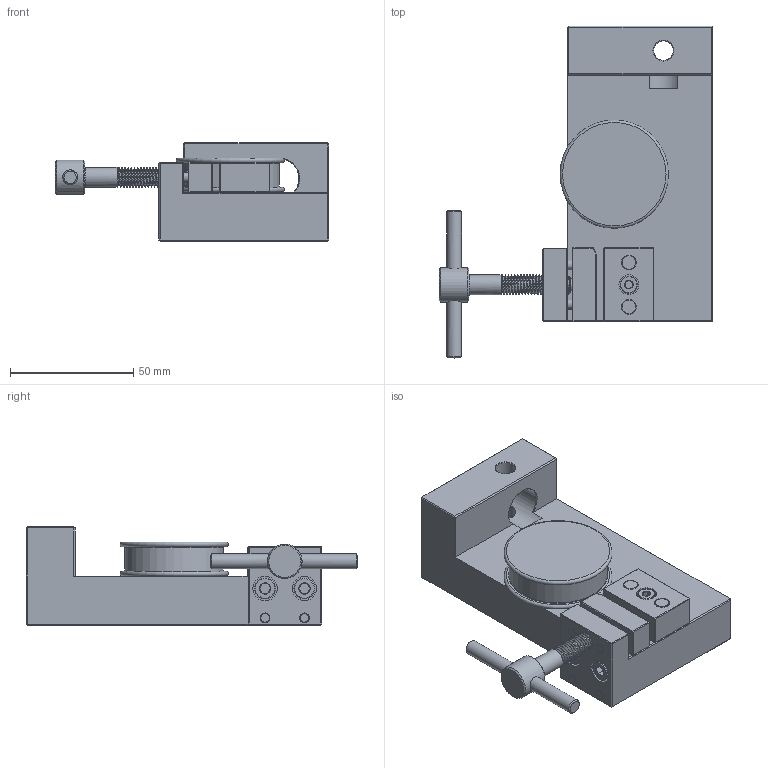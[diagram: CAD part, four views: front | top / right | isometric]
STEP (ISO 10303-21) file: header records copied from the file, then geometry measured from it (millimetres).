
FILE_DESCRIPTION((''),'2;1');
FILE_NAME('F:\SHARED FILES\DENE\3D MARKETING MODELS\WORK IN PROGRESS\NEW GRIPS 112117\G1102\G1102 MODEL.stp','2017-11-29T09:54:14',('mlampen'),(''),'Autodesk Inventor 2010','Autodesk Inventor 2010','');
FILE_SCHEMA(('AUTOMOTIVE_DESIGN { 1 0 10303 214 1 1 1 1 }'));
Length unit declared in the file: inch
Products named in the file (3): Assembly1; Part2; Part4
Assembly tree (2 placements, depth 2):
  Assembly1
    Part2
    Part4
Bounding box: 111.02 x 134.76 x 40 mm (x, y, z)
Volume: 202076.3 mm3; surface area: 39763.7 mm2
Topology: 3 solids, 3 shells, 224 faces, 658 edges, 461 vertices
Faces by surface type: plane 112, cylinder 49, cone 40, bspline 19, torus 4
Full cylindrical faces by diameter (mm): 3.975 x2, 3.988 x4, 5 x1, 6 x2, 6.02 x2, 6.35 x1, 7 x1, 7.62 x1, 8 x22, 8.001 x2, 8.065 x1, 8.5 x2, 9.868 x2, 14.034 x1, 15.913 x1, 39.954 x1
Entity records: 9227 total; most frequent: CARTESIAN_POINT 4272, ORIENTED_EDGE 1136, DIRECTION 831, EDGE_CURVE 568, VERTEX_POINT 447, AXIS2_PLACEMENT_3D 291, EDGE_LOOP 291, VECTOR 249
